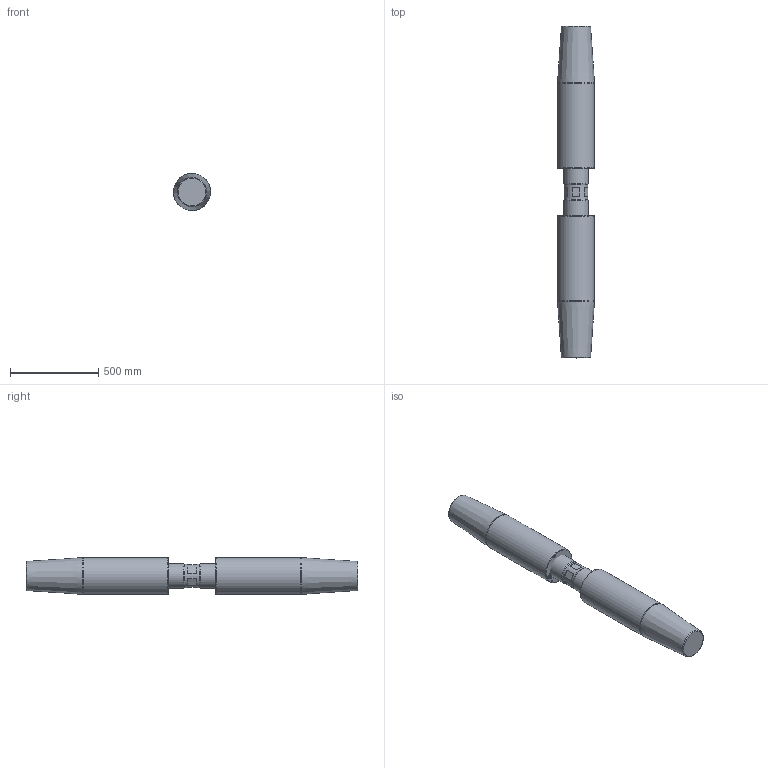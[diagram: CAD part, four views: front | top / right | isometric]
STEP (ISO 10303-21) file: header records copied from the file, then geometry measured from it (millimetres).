
FILE_DESCRIPTION(/* description */ (''),/* implementation_level */ '2;1');
FILE_NAME(/* name */ 'D:\Clienti\Redaelli (inventor)\CYA\STEP\Arrangement\CYA072 52 061 2.stp',/* time_stamp */ '2021-05-09T10:22:58+02:00',/* author */ ('fabri'),/* organization */ (''),/* preprocessor_version */ 'ST-DEVELOPER v16.13',/* originating_system */ 'Autodesk Inventor 2018',/* authorisation */ '');
FILE_SCHEMA (('AUTOMOTIVE_DESIGN { 1 0 10303 214 3 1 1 }'));
Length unit declared in the file: millimetre
Products named in the file (4): CYA012-54-062-0; TBF012-12-012-1; TBF012-13-012-0; TBF012-13-012-0_1
Assembly tree (3 placements, depth 2):
  CYA012-54-062-0
    TBF012-12-012-1
    TBF012-13-012-0
    TBF012-13-012-0_1
Bounding box: 209.87 x 1886 x 209.87 mm (x, y, z)
Volume: 64813011.5 mm3; surface area: 1548837.6 mm2
Topology: 3 solids, 3 shells, 469 faces, 1254 edges, 834 vertices
Faces by surface type: bspline 225, plane 201, cylinder 25, cone 14, torus 4
Full cylindrical faces by diameter (mm): 10.106 x8, 136 x1, 140 x2, 210 x2
Entity records: 16042 total; most frequent: CARTESIAN_POINT 5928, ORIENTED_EDGE 2430, DIRECTION 1285, EDGE_CURVE 1215, VERTEX_POINT 826, LINE 703, VECTOR 703, EDGE_LOOP 543
